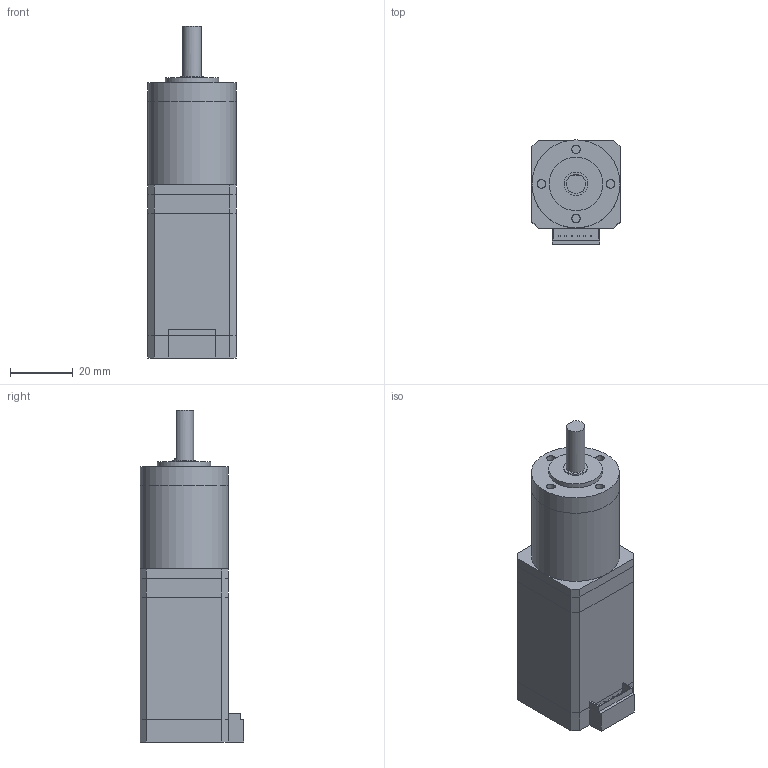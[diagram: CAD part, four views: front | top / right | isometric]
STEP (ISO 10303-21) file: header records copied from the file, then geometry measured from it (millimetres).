
FILE_DESCRIPTION(/* description */ (''),/* implementation_level */ '2;1');
FILE_NAME(/* name */ '28PG015-D10-0452.stp',/* time_stamp */ '2018-08-30T17:05:59+08:00',/* author */ (''),/* organization */ (''),/* preprocessor_version */ 'ST-DEVELOPER v11',/* originating_system */ 'SIEMENS UGS NX 6.0',/* authorisation */ '');
FILE_SCHEMA (('CONFIG_CONTROL_DESIGN'));
Length unit declared in the file: millimetre
Products named in the file (1): 28PG009-D10-0452
Bounding box: 28 x 33 x 105.5 mm (x, y, z)
Volume: 63693.3 mm3; surface area: 19019.2 mm2
Topology: 8 solids, 8 shells, 109 faces, 251 edges, 165 vertices
Faces by surface type: plane 95, cylinder 10, cone 4
Full cylindrical faces by diameter (mm): 2.7 x4, 6 x2, 7.5 x1, 17 x1, 28 x2
Entity records: 3038 total; most frequent: CARTESIAN_POINT 508, DIRECTION 480, ORIENTED_EDGE 470, EDGE_CURVE 235, LINE 210, VECTOR 210, VERTEX_POINT 163, EDGE_LOOP 140
